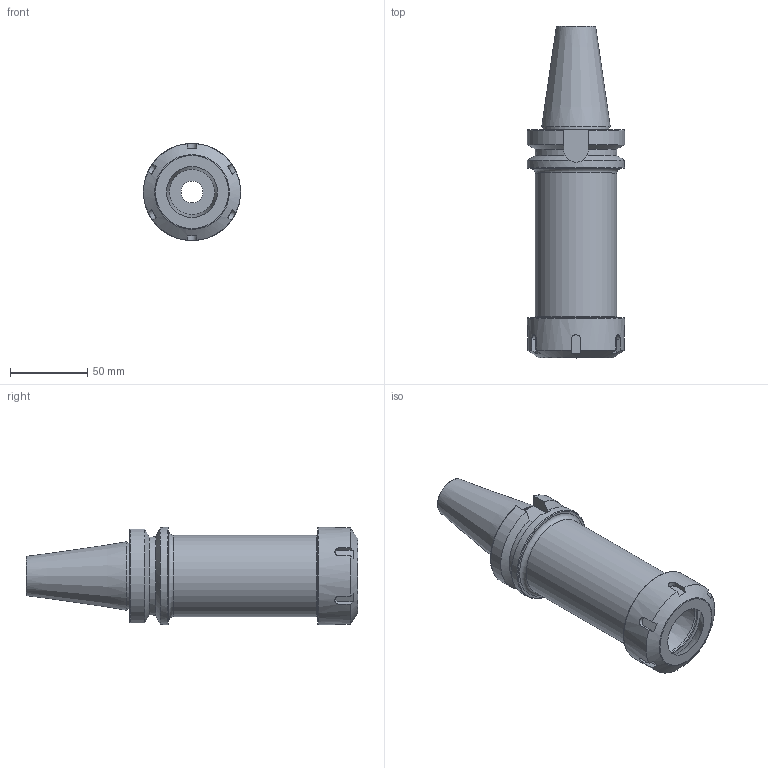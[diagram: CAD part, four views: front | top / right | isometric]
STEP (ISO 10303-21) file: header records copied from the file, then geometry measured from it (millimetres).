
FILE_DESCRIPTION(/* description */ (''),/* implementation_level */ '2;1');
FILE_NAME(/* name */ 'BT40-ER40-150.stp',/* time_stamp */ '2025-10-03T14:53:15+03:00',/* author */ ('User'),/* organization */ (''),/* preprocessor_version */ 'ST-DEVELOPER v19.2',/* originating_system */ 'Autodesk Inventor 2024',/* authorisation */ '');
FILE_SCHEMA (('AUTOMOTIVE_DESIGN { 1 0 10303 214 3 1 1 }'));
Length unit declared in the file: millimetre
Products named in the file (3): BT40-ER25-100; BT40-FMB60-75; ER25-M
Assembly tree (2 placements, depth 2):
  BT40-ER25-100
    BT40-FMB60-75
    ER25-M
Bounding box: 63 x 215.4 x 63 mm (x, y, z)
Volume: 304379.6 mm3; surface area: 65657.3 mm2
Topology: 2 solids, 2 shells, 81 faces, 210 edges, 142 vertices
Faces by surface type: plane 37, cylinder 23, cone 12, torus 9
Full cylindrical faces by diameter (mm): 14.2 x1, 17 x1, 29.319 x1, 40 x1, 43 x1, 48.5 x2, 50 x1, 53 x1, 63 x2
Entity records: 2839 total; most frequent: CARTESIAN_POINT 688, ORIENTED_EDGE 420, DIRECTION 413, EDGE_CURVE 210, AXIS2_PLACEMENT_3D 168, VERTEX_POINT 142, EDGE_LOOP 94, CIRCLE 82
